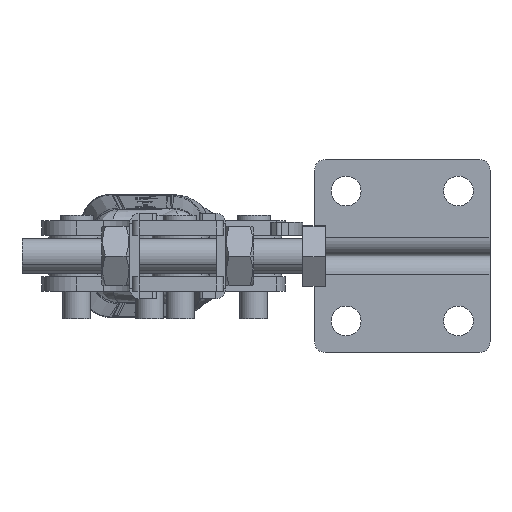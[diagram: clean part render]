
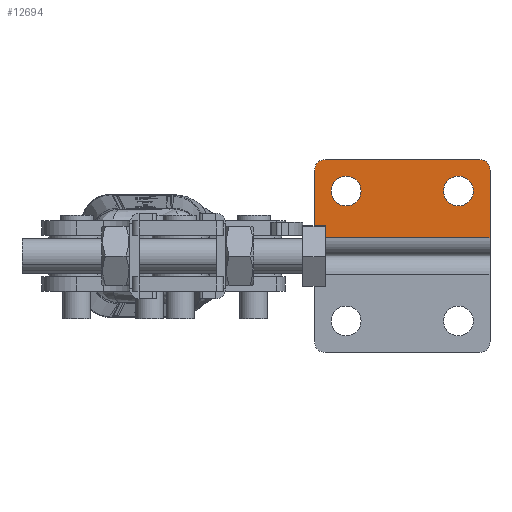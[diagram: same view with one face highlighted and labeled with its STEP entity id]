
A CAD part, left-side view. The second image highlights one B-rep face of the part: STEP entity #12694.
In plain terms, the highlighted planar face has unit normal (-1, 0, 0).
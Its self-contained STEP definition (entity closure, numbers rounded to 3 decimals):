
#80 = CARTESIAN_POINT ( 'NONE',  ( -30.25, -24.591, 23.25 ) ) ;
#147 = ORIENTED_EDGE ( 'NONE', *, *, #10173, .T. ) ;
#1092 = EDGE_CURVE ( 'NONE', #24251, #13082, #14507, .T. ) ;
#1212 = DIRECTION ( 'NONE',  ( 1., 0., 0. ) ) ;
#2103 = AXIS2_PLACEMENT_3D ( 'NONE', #3369, #17173, #5380 ) ;
#2117 = VECTOR ( 'NONE', #24384, 1000. ) ;
#2238 = VECTOR ( 'NONE', #9986, 1000. ) ;
#2495 = DIRECTION ( 'NONE',  ( -1., 0., 0. ) ) ;
#2534 = EDGE_CURVE ( 'NONE', #22315, #24502, #13237, .T. ) ;
#2663 = EDGE_LOOP ( 'NONE', ( #6565, #23065, #24016, #147, #20739, #14565 ) ) ;
#2822 = CARTESIAN_POINT ( 'NONE',  ( -30.25, -27.591, 20.25 ) ) ;
#2923 = ORIENTED_EDGE ( 'NONE', *, *, #4426, .T. ) ;
#3369 = CARTESIAN_POINT ( 'NONE',  ( -30.25, 13.409, 14.25 ) ) ;
#3509 = DIRECTION ( 'NONE',  ( 0., 1., 0. ) ) ;
#4189 = CARTESIAN_POINT ( 'NONE',  ( -30.25, 22.409, 0. ) ) ;
#4203 = EDGE_CURVE ( 'NONE', #8652, #14711, #25158, .T. ) ;
#4426 = EDGE_CURVE ( 'NONE', #13568, #12839, #12241, .T. ) ;
#5380 = DIRECTION ( 'NONE',  ( 0., 0., -1. ) ) ;
#5712 = CARTESIAN_POINT ( 'NONE',  ( -30.25, 22.409, 1. ) ) ;
#6052 = ORIENTED_EDGE ( 'NONE', *, *, #21391, .T. ) ;
#6059 = FACE_BOUND ( 'NONE', #18262, .T. ) ;
#6132 = EDGE_CURVE ( 'NONE', #25350, #24502, #17985, .T. ) ;
#6565 = ORIENTED_EDGE ( 'NONE', *, *, #23349, .T. ) ;
#6774 = DIRECTION ( 'NONE',  ( 1., 0., 0. ) ) ;
#6891 = AXIS2_PLACEMENT_3D ( 'NONE', #14313, #2495, #16305 ) ;
#7254 = CARTESIAN_POINT ( 'NONE',  ( -30.25, 13.409, 14.25 ) ) ;
#7345 = CIRCLE ( 'NONE', #19752, 4.25 ) ;
#8235 = CARTESIAN_POINT ( 'NONE',  ( -30.25, 19.409, 20.25 ) ) ;
#8652 = VERTEX_POINT ( 'NONE', #80 ) ;
#8726 = CARTESIAN_POINT ( 'NONE',  ( -30.25, 13.409, 18.5 ) ) ;
#9219 = DIRECTION ( 'NONE',  ( 0., 0., -1. ) ) ;
#9476 = VECTOR ( 'NONE', #3509, 1000. ) ;
#9585 = CARTESIAN_POINT ( 'NONE',  ( -30.25, -18.591, 18.5 ) ) ;
#9598 = CARTESIAN_POINT ( 'NONE',  ( -30.25, 13.409, 10. ) ) ;
#9631 = CARTESIAN_POINT ( 'NONE',  ( -30.25, -27.591, 1. ) ) ;
#9986 = DIRECTION ( 'NONE',  ( 0., 0., -1. ) ) ;
#10173 = EDGE_CURVE ( 'NONE', #14711, #25350, #13232, .T. ) ;
#10232 = DIRECTION ( 'NONE',  ( 0., 0., -1. ) ) ;
#10475 = CARTESIAN_POINT ( 'NONE',  ( -30.25, 22.409, 20.25 ) ) ;
#10640 = CARTESIAN_POINT ( 'NONE',  ( -30.25, -18.591, 14.25 ) ) ;
#10729 = CARTESIAN_POINT ( 'NONE',  ( -30.25, 22.409, 1. ) ) ;
#10739 = EDGE_CURVE ( 'NONE', #17737, #8652, #21530, .T. ) ;
#10973 = PLANE ( 'NONE',  #25033 ) ;
#11075 = EDGE_LOOP ( 'NONE', ( #22917, #16935 ) ) ;
#11601 = LINE ( 'NONE', #23398, #16211 ) ;
#12241 = CIRCLE ( 'NONE', #19504, 4.25 ) ;
#12620 = DIRECTION ( 'NONE',  ( 0., 0., -1. ) ) ;
#12694 = ADVANCED_FACE ( 'NONE', ( #17158, #6059, #15928 ), #10973, .F. ) ;
#12743 = EDGE_CURVE ( 'NONE', #13082, #24251, #15302, .T. ) ;
#12839 = VERTEX_POINT ( 'NONE', #9585 ) ;
#13082 = VERTEX_POINT ( 'NONE', #8726 ) ;
#13232 = CIRCLE ( 'NONE', #14595, 3. ) ;
#13237 = LINE ( 'NONE', #10729, #2117 ) ;
#13451 = DIRECTION ( 'NONE',  ( 0., 0., 1. ) ) ;
#13568 = VERTEX_POINT ( 'NONE', #15407 ) ;
#14313 = CARTESIAN_POINT ( 'NONE',  ( -30.25, -24.591, 20.25 ) ) ;
#14507 = CIRCLE ( 'NONE', #24048, 4.25 ) ;
#14565 = ORIENTED_EDGE ( 'NONE', *, *, #2534, .F. ) ;
#14595 = AXIS2_PLACEMENT_3D ( 'NONE', #8235, #22020, #10232 ) ;
#14711 = VERTEX_POINT ( 'NONE', #22133 ) ;
#15011 = DIRECTION ( 'NONE',  ( 0., 0., -1. ) ) ;
#15302 = CIRCLE ( 'NONE', #2103, 4.25 ) ;
#15407 = CARTESIAN_POINT ( 'NONE',  ( -30.25, -18.591, 10. ) ) ;
#15928 = FACE_OUTER_BOUND ( 'NONE', #2663, .T. ) ;
#16211 = VECTOR ( 'NONE', #13451, 1000. ) ;
#16305 = DIRECTION ( 'NONE',  ( 0., 0., -1. ) ) ;
#16935 = ORIENTED_EDGE ( 'NONE', *, *, #12743, .T. ) ;
#17158 = FACE_BOUND ( 'NONE', #11075, .T. ) ;
#17173 = DIRECTION ( 'NONE',  ( 1., 0., 0. ) ) ;
#17737 = VERTEX_POINT ( 'NONE', #2822 ) ;
#17985 = LINE ( 'NONE', #4189, #2238 ) ;
#18262 = EDGE_LOOP ( 'NONE', ( #2923, #6052 ) ) ;
#18580 = CARTESIAN_POINT ( 'NONE',  ( -30.25, -18.591, 14.25 ) ) ;
#19504 = AXIS2_PLACEMENT_3D ( 'NONE', #18580, #6774, #20548 ) ;
#19752 = AXIS2_PLACEMENT_3D ( 'NONE', #10640, #24377, #12620 ) ;
#20548 = DIRECTION ( 'NONE',  ( 0., 0., -1. ) ) ;
#20739 = ORIENTED_EDGE ( 'NONE', *, *, #6132, .T. ) ;
#21019 = DIRECTION ( 'NONE',  ( 1., 0., 0. ) ) ;
#21391 = EDGE_CURVE ( 'NONE', #12839, #13568, #7345, .T. ) ;
#21530 = CIRCLE ( 'NONE', #6891, 3. ) ;
#22020 = DIRECTION ( 'NONE',  ( -1., 0., 0. ) ) ;
#22133 = CARTESIAN_POINT ( 'NONE',  ( -30.25, 19.409, 23.25 ) ) ;
#22315 = VERTEX_POINT ( 'NONE', #9631 ) ;
#22917 = ORIENTED_EDGE ( 'NONE', *, *, #1092, .T. ) ;
#23065 = ORIENTED_EDGE ( 'NONE', *, *, #10739, .T. ) ;
#23349 = EDGE_CURVE ( 'NONE', #22315, #17737, #11601, .T. ) ;
#23398 = CARTESIAN_POINT ( 'NONE',  ( -30.25, -27.591, 0. ) ) ;
#24016 = ORIENTED_EDGE ( 'NONE', *, *, #4203, .T. ) ;
#24048 = AXIS2_PLACEMENT_3D ( 'NONE', #7254, #21019, #9219 ) ;
#24251 = VERTEX_POINT ( 'NONE', #9598 ) ;
#24377 = DIRECTION ( 'NONE',  ( 1., 0., 0. ) ) ;
#24384 = DIRECTION ( 'NONE',  ( 0., 1., 0. ) ) ;
#24502 = VERTEX_POINT ( 'NONE', #5712 ) ;
#24795 = CARTESIAN_POINT ( 'NONE',  ( -30.25, 0., 0. ) ) ;
#25033 = AXIS2_PLACEMENT_3D ( 'NONE', #24795, #1212, #15011 ) ;
#25098 = CARTESIAN_POINT ( 'NONE',  ( -30.25, 0., 23.25 ) ) ;
#25158 = LINE ( 'NONE', #25098, #9476 ) ;
#25350 = VERTEX_POINT ( 'NONE', #10475 ) ;
